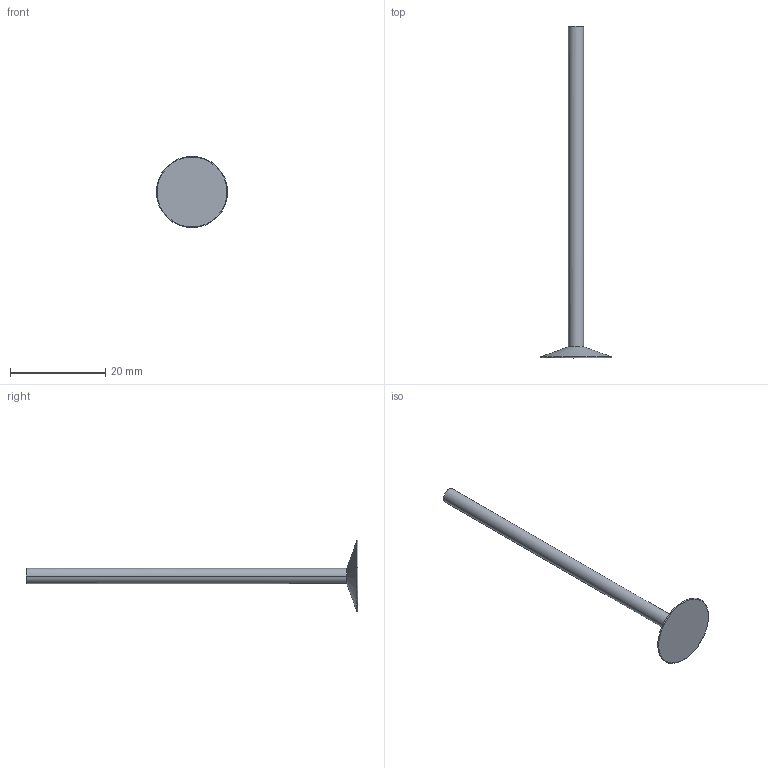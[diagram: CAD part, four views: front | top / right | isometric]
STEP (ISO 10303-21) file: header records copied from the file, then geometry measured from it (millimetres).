
FILE_DESCRIPTION (( 'STEP AP214' ), '1' );
FILE_NAME ('NORDSONEFD-7021838 15MM 591 SPINNER.STEP', '2019-07-21T15:09:10', ( '' ), ( '' ), 'SwSTEP 2.0', 'SolidWorks 2019', '' );
FILE_SCHEMA (( 'AUTOMOTIVE_DESIGN' ));
Length unit declared in the file: inch
Products named in the file (1): NORDSONEFD-7021838 15MM 591 SPINNER
Bounding box: 14.97 x 69.85 x 14.97 mm (x, y, z)
Volume: 730.2 mm3; surface area: 1043.3 mm2
Topology: 1 solids, 1 shells, 8 faces, 16 edges, 10 vertices
Faces by surface type: cone 2, torus 2, cylinder 2, plane 2
Entity records: 256 total; most frequent: DIRECTION 46, CARTESIAN_POINT 35, ORIENTED_EDGE 32, AXIS2_PLACEMENT_3D 21, EDGE_CURVE 16, CIRCLE 12, VERTEX_POINT 10, ADVANCED_FACE 8
